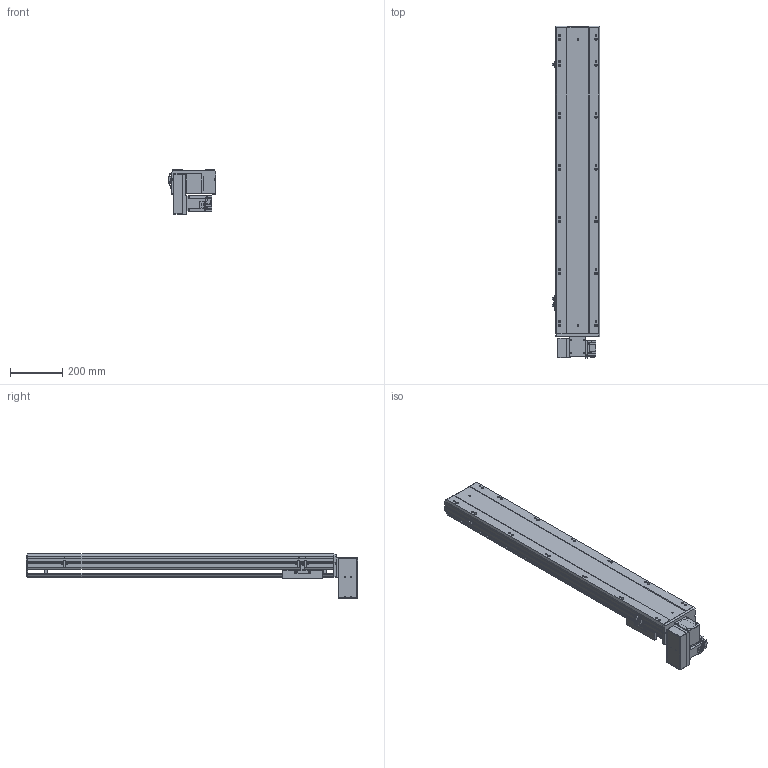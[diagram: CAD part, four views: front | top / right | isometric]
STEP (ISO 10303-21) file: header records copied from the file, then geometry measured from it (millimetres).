
FILE_DESCRIPTION (( 'STEP AP203' ), '1' );
FILE_NAME ('BTB17-L40-900-RU-M40-C4.STEP', '2022-07-20T09:03:39', ( 'CXY' ), ( 'BT' ), 'SwSTEP 2.0', 'SolidWorks 2016', '' );
FILE_SCHEMA (( 'CONFIG_CONTROL_DESIGN' ));
Length unit declared in the file: millimetre
Products named in the file (11): BTB17-L-24; BTB17-L-06; BTB17-L40-900-RU-M40-C4; M40; FS-07-T40(1); FS-08-T40; BTB17-L-01; BTB17-L-04; BTB17-L-HZ; BTB17-L-23; BTB17-L-菁釱_XD
Assembly tree (13 placements, depth 2):
  BTB17-L40-900-RU-M40-C4
    BTB17-L-菁釱_XD
    BTB17-L-01
    BTB17-L-04  x3
    BTB17-L-06
    BTB17-L-23  x2
    BTB17-L-24
    BTB17-L-HZ
    FS-07-T40(1)
    FS-08-T40
    M40
Bounding box: 183.7 x 1275.3 x 171.5 mm (x, y, z)
Volume: 10938344.3 mm3; surface area: 1517895.5 mm2
Topology: 22 solids, 22 shells, 1615 faces, 4251 edges, 2696 vertices
Faces by surface type: plane 907, cylinder 524, cone 152, torus 16, bspline 16
Entity records: 41998 total; most frequent: CARTESIAN_POINT 8254, DIRECTION 6853, ORIENTED_EDGE 6654, EDGE_CURVE 3327, AXIS2_PLACEMENT_3D 2317, VECTOR 2219, LINE 2219, VERTEX_POINT 2164
